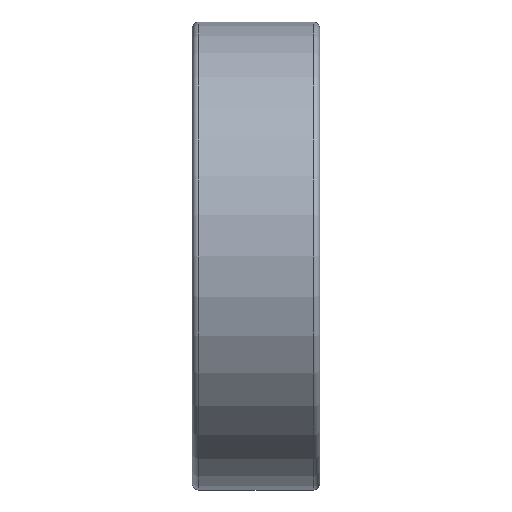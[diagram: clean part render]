
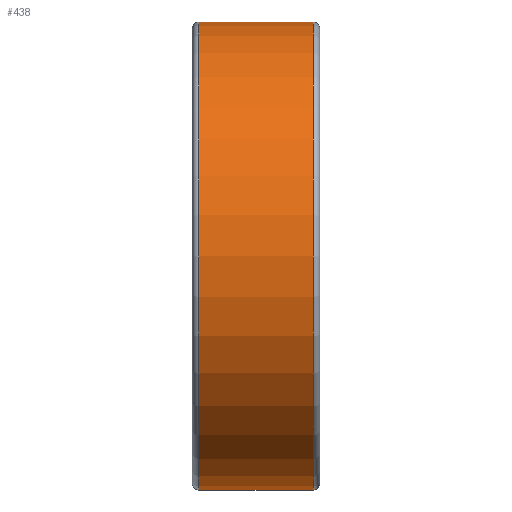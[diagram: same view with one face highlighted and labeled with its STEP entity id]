
A CAD part, front view. The second image highlights one B-rep face of the part: STEP entity #438.
In plain terms, the highlighted cylindrical face has radius 11 mm (diameter 22 mm), a full revolution.
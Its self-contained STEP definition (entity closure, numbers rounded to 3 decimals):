
#146=CYLINDRICAL_SURFACE('',#666,11.);
#218=EDGE_LOOP('',(#302));
#219=EDGE_LOOP('',(#303));
#302=ORIENTED_EDGE('',*,*,#352,.F.);
#303=ORIENTED_EDGE('',*,*,#350,.T.);
#350=EDGE_CURVE('',#607,#607,#370,.T.);
#352=EDGE_CURVE('',#609,#609,#372,.T.);
#370=CIRCLE('',#662,11.);
#372=CIRCLE('',#665,11.);
#438=ADVANCED_FACE('',(#537,#538),#146,.T.);
#537=FACE_BOUND('',#218,.T.);
#538=FACE_BOUND('',#219,.T.);
#607=VERTEX_POINT('',#2170);
#609=VERTEX_POINT('',#2175);
#662=AXIS2_PLACEMENT_3D('',#2169,#769,#770);
#665=AXIS2_PLACEMENT_3D('',#2174,#775,#776);
#666=AXIS2_PLACEMENT_3D('',#2176,#777,#778);
#769=DIRECTION('',(1.,0.,0.));
#770=DIRECTION('',(0.,0.,-1.));
#775=DIRECTION('',(1.,0.,0.));
#776=DIRECTION('',(0.,0.,-1.));
#777=DIRECTION('',(1.,0.,0.));
#778=DIRECTION('',(0.,0.,-1.));
#2169=CARTESIAN_POINT('',(-2.7,0.,0.));
#2170=CARTESIAN_POINT('',(-2.7,0.,-11.));
#2174=CARTESIAN_POINT('',(2.7,0.,0.));
#2175=CARTESIAN_POINT('',(2.7,0.,-11.));
#2176=CARTESIAN_POINT('',(-2.7,0.,0.));
